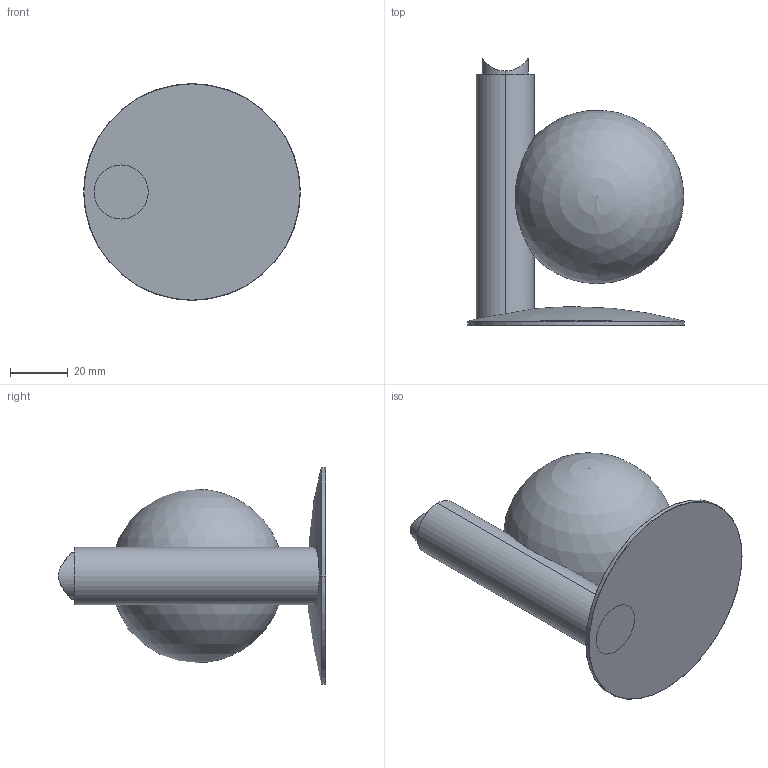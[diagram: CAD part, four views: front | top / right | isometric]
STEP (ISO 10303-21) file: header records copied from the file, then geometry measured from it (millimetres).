
FILE_DESCRIPTION (( 'STEP AP214' ), '1' );
FILE_NAME ('Amid.STEP', '2021-09-16T01:29:30', ( '' ), ( '' ), 'SwSTEP 2.0', 'SolidWorks 2017', '' );
FILE_SCHEMA (( 'AUTOMOTIVE_DESIGN' ));
Length unit declared in the file: millimetre
Products named in the file (1): Amid
Bounding box: 75 x 92.47 x 75 mm (x, y, z)
Volume: 58362.7 mm3; surface area: 39091.9 mm2
Topology: 4 solids, 4 shells, 38 faces, 80 edges, 51 vertices
Faces by surface type: cylinder 15, plane 9, sphere 8, torus 4, cone 2
Entity records: 1553 total; most frequent: CARTESIAN_POINT 460, DIRECTION 186, ORIENTED_EDGE 140, AXIS2_PLACEMENT_3D 85, EDGE_CURVE 70, CIRCLE 46, VERTEX_POINT 45, EDGE_LOOP 43
